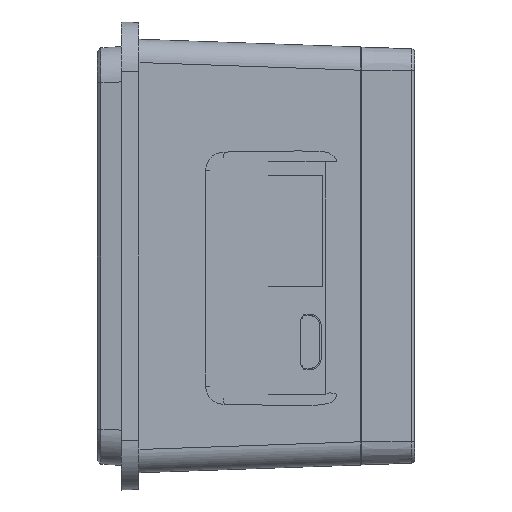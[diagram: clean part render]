
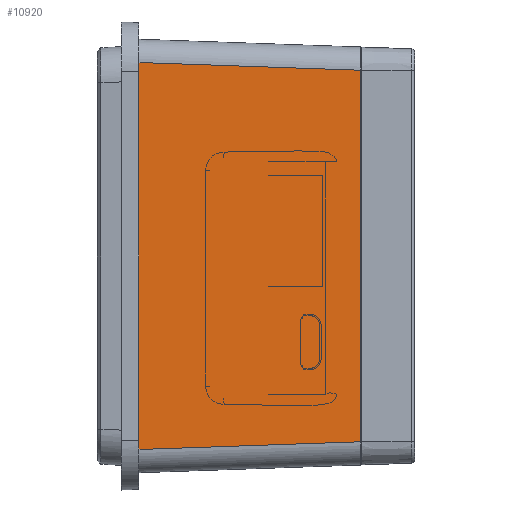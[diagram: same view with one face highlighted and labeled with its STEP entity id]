
A CAD part, left-side view. The second image highlights one B-rep face of the part: STEP entity #10920.
In plain terms, the highlighted planar face has unit normal (-0.999, -0.035, 0).
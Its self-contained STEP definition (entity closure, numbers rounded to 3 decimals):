
#990=CARTESIAN_POINT('',(-34.603,7.7,-26.355));
#992=CARTESIAN_POINT('',(-35.7,39.1,-27.452));
#1000=DIRECTION('',(-0.035,0.999,0.035));
#1001=VECTOR('',#1000,31.438);
#1002=CARTESIAN_POINT('',(-34.603,7.7,26.355));
#1003=LINE('',#1002,#1001);
#1004=DIRECTION('',(0.035,-0.999,0.035));
#1005=VECTOR('',#1004,31.438);
#1006=CARTESIAN_POINT('',(-35.7,39.1,-27.452));
#1007=LINE('',#1006,#1005);
#1008=DIRECTION('',(0.,0.,-1.));
#1009=VECTOR('',#1008,54.904);
#1010=CARTESIAN_POINT('',(-35.7,39.1,27.452));
#1011=LINE('',#1010,#1009);
#1012=CARTESIAN_POINT('',(-34.603,7.7,26.355));
#1044=DIRECTION('',(0.,0.,-1.));
#1045=VECTOR('',#1044,52.711);
#1046=CARTESIAN_POINT('',(-34.603,7.7,26.355));
#1047=LINE('',#1046,#1045);
#8344=VERTEX_POINT('',#992);
#8846=VERTEX_POINT('',#990);
#9050=VERTEX_POINT('',#1012);
#9113=CARTESIAN_POINT('',(-35.7,39.1,27.452));
#9114=VERTEX_POINT('',#9113);
#10907=CARTESIAN_POINT('',(-35.7,39.1,-33.342));
#10908=DIRECTION('',(-0.999,-0.035,0.));
#10909=DIRECTION('',(0.,0.,-1.));
#10910=AXIS2_PLACEMENT_3D('',#10907,#10908,#10909);
#10911=PLANE('',#10910);
#10913=ORIENTED_EDGE('',*,*,#10912,.F.);
#10915=ORIENTED_EDGE('',*,*,#10914,.T.);
#10916=ORIENTED_EDGE('',*,*,#10898,.F.);
#10917=ORIENTED_EDGE('',*,*,#10733,.F.);
#10918=EDGE_LOOP('',(#10913,#10915,#10916,#10917));
#10919=FACE_OUTER_BOUND('',#10918,.F.);
#10733=EDGE_CURVE('',#9114,#8344,#1011,.T.);
#10898=EDGE_CURVE('',#8344,#8846,#1007,.T.);
#10912=EDGE_CURVE('',#9050,#9114,#1003,.T.);
#10914=EDGE_CURVE('',#9050,#8846,#1047,.T.);
#10920=ADVANCED_FACE('',(#10919),#10911,.T.);
